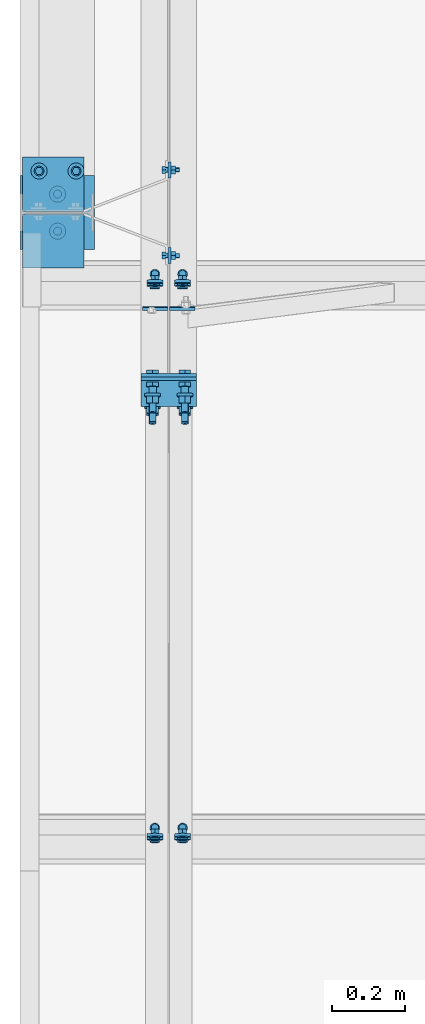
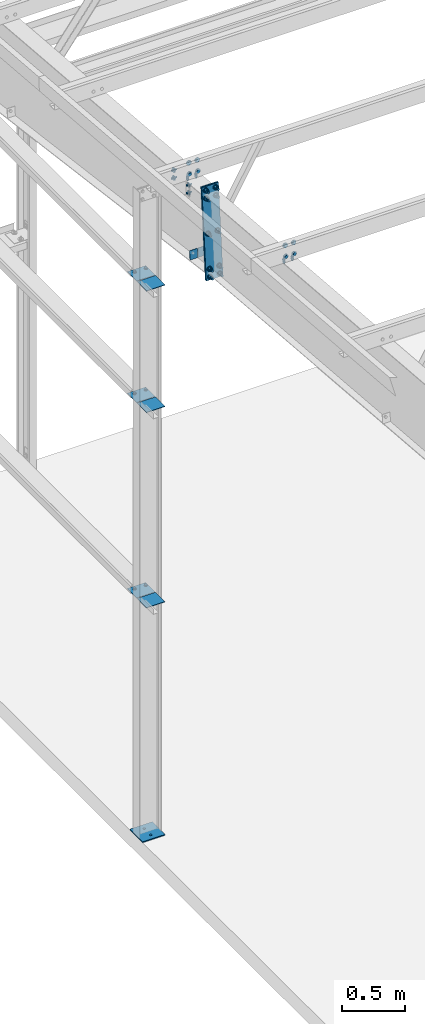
# One storey, part 84 of 185: 15 mechanical fasteners, 11 discrete accessories, 7 elements without a shape of their own.
"""IFC2X3 building model written with IfcOpenShell, lengths in millimetres."""

import ifcopenshell
import ifcopenshell.guid

model = None  # the IFC model being written
_history = None  # IfcOwnerHistory: only IFC2X3 demands one
_inside = {}  # id of a spatial element -> (the spatial element, [elements in it])
_under = {}  # id of a project, library or spatial element -> (it, [spatial elements below it])
_declared = {}  # id of a project -> (the project, [libraries it declares])
_typed = {}  # id of a type object -> (the type object, [elements of that type])
_made_of = {}  # id of a material, layer set ... -> (it, [elements and type objects made of it])


def new_model(schema):
    """Start an empty IFC model of exactly this schema.

    Asked for "IFC4X3", IfcOpenShell would pick the latest addendum, in which some entities
    have other attributes; the version numbers below select the first issue.
    IFC2X3 requires an IfcOwnerHistory on every rooted entity: one is made here for all.
    """
    global model, _history
    if schema == "IFC4X3":
        model = ifcopenshell.file(schema_version=(4, 3, 0, 0))
    else:
        model = ifcopenshell.file(schema=schema)
    _inside.clear()
    _under.clear()
    _declared.clear()
    _typed.clear()
    _made_of.clear()
    _history = None
    if model.schema == "IFC2X3":
        org = make("IfcOrganization", Name="unknown")
        user = make(
            "IfcPersonAndOrganization",
            ThePerson=make("IfcPerson", FamilyName="unknown"),
            TheOrganization=org,
        )
        app = make(
            "IfcApplication",
            ApplicationDeveloper=org,
            Version="unknown",
            ApplicationFullName="unknown",
            ApplicationIdentifier="unknown",
        )
        _history = make(
            "IfcOwnerHistory",
            OwningUser=user,
            OwningApplication=app,
            ChangeAction="ADDED",
            CreationDate=0,
        )
    return model


def make(cls, **values):
    """One entity of the class cls with the attributes given. An attribute that is None is left unset."""
    return model.create_entity(
        cls, **{name: value for name, value in values.items() if value is not None}
    )


def rooted(cls, **values):
    """An entity with a GlobalId (a new one), such as an element, a storey or a relation."""
    return make(cls, GlobalId=ifcopenshell.guid.new(), OwnerHistory=_history, **values)


def si_unit(unit_type, name, prefix=None):
    """IfcSIUnit, for example si_unit("LENGTHUNIT", "METRE", prefix="MILLI")."""
    return make("IfcSIUnit", UnitType=unit_type, Prefix=prefix, Name=name)


def assignment(units):
    """IfcUnitAssignment: the units of a project."""
    return None if units is None else make("IfcUnitAssignment", Units=units)


def point(xyz):
    """IfcCartesianPoint."""
    return None if xyz is None else make("IfcCartesianPoint", Coordinates=xyz)


def direction(xyz):
    """IfcDirection."""
    return None if xyz is None else make("IfcDirection", DirectionRatios=xyz)


def frame(location, z_axis=None, x_axis=None):
    """IfcAxis2Placement3D, a coordinate frame: its origin and axes. An axis left out is left unset."""
    return make(
        "IfcAxis2Placement3D",
        Location=point(location),
        Axis=direction(z_axis),
        RefDirection=direction(x_axis),
    )


def frame_2d(location, x_axis=None):
    """IfcAxis2Placement2D, a coordinate frame in the plane: its origin and x axis."""
    return make(
        "IfcAxis2Placement2D", Location=point(location), RefDirection=direction(x_axis)
    )


def origin_with_axes():
    """The frame at (0, 0, 0) with the z axis (0, 0, 1) and the x axis (1, 0, 0) written out."""
    return frame((0.0, 0.0, 0.0), z_axis=(0.0, 0.0, 1.0), x_axis=(1.0, 0.0, 0.0))


def origin_2d_with_axis():
    """The frame at (0, 0) in the plane with the x axis (1, 0) written out."""
    return frame_2d((0.0, 0.0), x_axis=(1.0, 0.0))


def place(relative_to, where):
    """IfcLocalPlacement: puts the frame where relative to a parent placement (None: the world)."""
    return make(
        "IfcLocalPlacement", PlacementRelTo=relative_to, RelativePlacement=where
    )


def context(
    kind, dimensions, precision=None, world=None, true_north=None, identifier=None
):
    """IfcGeometricRepresentationContext, for example the 3D "Model" context."""
    return make(
        "IfcGeometricRepresentationContext",
        ContextIdentifier=identifier,
        ContextType=kind,
        CoordinateSpaceDimension=dimensions,
        Precision=precision,
        WorldCoordinateSystem=world,
        TrueNorth=true_north,
    )


def subcontext(parent, identifier, kind, view, scale=None):
    """IfcGeometricRepresentationSubContext, for example "Body" below "Model"."""
    return make(
        "IfcGeometricRepresentationSubContext",
        ContextIdentifier=identifier,
        ContextType=kind,
        ParentContext=parent,
        TargetScale=scale,
        TargetView=view,
    )


def project(units=None, contexts=None):
    """IfcProject with its units and contexts."""
    return rooted(
        "IfcProject",
        Name="project",
        RepresentationContexts=contexts,
        UnitsInContext=assignment(units),
    )


def spatial(cls, under=None, at=None, **own):
    """A site, building, storey or space (cls), placed at a placement, below another one or the project."""
    s = rooted(cls, ObjectPlacement=at, **own)
    if under is not None:
        _under.setdefault(under.id(), (under, []))[1].append(s)
    return s


def polyline(points):
    """IfcPolyline through the points."""
    return make("IfcPolyline", Points=[point(p) for p in points])


def circle_curve(where, radius):
    """IfcCircle in the frame where."""
    return make("IfcCircle", Position=where, Radius=radius)


def parameter(value):
    """IfcParameterValue: where a trimmed curve begins or ends, as a parameter of its basis curve."""
    return model.create_entity("IfcParameterValue", value)


def trimmed(basis, trim1, trim2, sense, master):
    """IfcTrimmedCurve: the piece of a basis curve between two trims."""
    return make(
        "IfcTrimmedCurve",
        BasisCurve=basis,
        Trim1=trim1,
        Trim2=trim2,
        SenseAgreement=sense,
        MasterRepresentation=master,
    )


def segment(curve, same_sense, transition):
    """IfcCompositeCurveSegment."""
    return make(
        "IfcCompositeCurveSegment",
        Transition=transition,
        SameSense=same_sense,
        ParentCurve=curve,
    )


def composite_curve(segments, self_intersect=None):
    """IfcCompositeCurve: segments joined end to end."""
    return make("IfcCompositeCurve", Segments=segments, SelfIntersect=self_intersect)


def profile(cls, at=None, kind="AREA", **sizes):
    """A parametric profile (cls). Its sizes go by their IFC names, for example OverallWidth=200.0."""
    return make(cls, ProfileType=kind, Position=at, **sizes)


def rectangle(**sizes):
    """IfcRectangleProfileDef."""
    return profile("IfcRectangleProfileDef", **sizes)


def circle(**sizes):
    """IfcCircleProfileDef."""
    return profile("IfcCircleProfileDef", **sizes)


def outline(outer, holes=None, kind="AREA"):
    """IfcArbitraryClosedProfileDef: a profile drawn as a closed curve; with holes, ...WithVoids."""
    if holes is None:
        return make("IfcArbitraryClosedProfileDef", ProfileType=kind, OuterCurve=outer)
    return make(
        "IfcArbitraryProfileDefWithVoids",
        ProfileType=kind,
        OuterCurve=outer,
        InnerCurves=holes,
    )


def extrude(swept, where, along, depth):
    """IfcExtrudedAreaSolid: the profile swept, set in the frame where, extruded along a direction by depth."""
    return make(
        "IfcExtrudedAreaSolid",
        SweptArea=swept,
        Position=where,
        ExtrudedDirection=direction(along),
        Depth=depth,
    )


def shape(context_of_items, identifier, shape_type, items):
    """IfcShapeRepresentation: the items that make up one representation, for example the "Body"."""
    return make(
        "IfcShapeRepresentation",
        ContextOfItems=context_of_items,
        RepresentationIdentifier=identifier,
        RepresentationType=shape_type,
        Items=items,
    )


def source(mapping_origin, context_of_items, identifier, shape_type, items):
    """IfcRepresentationMap: a shape defined once, which mapped items show again and again."""
    return make(
        "IfcRepresentationMap",
        MappingOrigin=mapping_origin,
        MappedRepresentation=shape(context_of_items, identifier, shape_type, items),
    )


def transform(
    local_origin,
    x_axis=None,
    y_axis=None,
    z_axis=None,
    scale=None,
    scale2=None,
    scale3=None,
    uniform=True,
):
    """IfcCartesianTransformationOperator3D, or its non-uniform kind. x_axis, y_axis, z_axis: its Axis1, 2, 3."""
    if uniform:
        return make(
            "IfcCartesianTransformationOperator3D",
            Axis1=direction(x_axis),
            Axis2=direction(y_axis),
            LocalOrigin=point(local_origin),
            Scale=scale,
            Axis3=direction(z_axis),
        )
    return make(
        "IfcCartesianTransformationOperator3DnonUniform",
        Axis1=direction(x_axis),
        Axis2=direction(y_axis),
        LocalOrigin=point(local_origin),
        Scale=scale,
        Axis3=direction(z_axis),
        Scale2=scale2,
        Scale3=scale3,
    )


def mapped(mapping_source, mapping_target):
    """IfcMappedItem: shows the shape of a source again, moved by a transform."""
    return make(
        "IfcMappedItem", MappingSource=mapping_source, MappingTarget=mapping_target
    )


def material(Name=None, Category=None):
    """IfcMaterial."""
    return make("IfcMaterial", Name=Name, Category=Category)


def made_of(thing, what):
    """Note that an element or type object is made of a material, layer set ...; save() writes the relation."""
    if what is not None:
        _made_of.setdefault(what.id(), (what, []))[1].append(thing)
    return thing


def type_object(cls, material=None, **own):
    """A type object (cls), such as IfcWallType, which elements share."""
    return made_of(rooted(cls, **own), material)


def element(
    cls,
    number,
    at=None,
    inside=None,
    cuts=None,
    type_object=None,
    material=None,
    context=None,
    identifier="Body",
    shape_type=None,
    held_by="IfcProductDefinitionShape",
    body=None,
    shapes=None,
    **own,
):
    """One element of the class cls, such as IfcWall. Its Tag is "e" and its number.

    at: its placement. inside: the storey or other place that contains it. cuts: it is an
    opening in that element (IfcRelVoidsElement). A single representation is given by context,
    identifier, shape_type and body (its items); several are given by shapes. held_by: the class
    of the entity that holds the representations. save() writes the other relations.
    """
    e = rooted(cls, Tag="e%d" % number, ObjectPlacement=at, **own)
    if body is not None:
        shapes = [shape(context, identifier, shape_type, body)]
    if shapes is not None:
        e.Representation = make(held_by, Representations=shapes)
    if inside is not None:
        _inside.setdefault(inside.id(), (inside, []))[1].append(e)
    if cuts is not None:
        rooted(
            "IfcRelVoidsElement", RelatingBuildingElement=cuts, RelatedOpeningElement=e
        )
    if type_object is not None:
        _typed.setdefault(type_object.id(), (type_object, []))[1].append(e)
    return made_of(e, material)


def aggregate(whole, parts):
    """IfcRelAggregates: a whole, such as a stair, and the parts it consists of."""
    return rooted("IfcRelAggregates", RelatingObject=whole, RelatedObjects=parts)


def save(model, path):
    """Write the relations noted so far, then the file.

    IfcRelAggregates (storeys below a building ...), IfcRelContainedInSpatialStructure (elements
    in a storey), IfcRelDefinesByType, IfcRelAssociatesMaterial and IfcRelDeclares: one each for
    every whole, place, type object, material and project.
    """
    for whole, parts in _under.values():
        aggregate(whole, parts)
    for where, things in _inside.values():
        rooted(
            "IfcRelContainedInSpatialStructure",
            RelatedElements=things,
            RelatingStructure=where,
        )
    for kind, things in _typed.values():
        rooted("IfcRelDefinesByType", RelatedObjects=things, RelatingType=kind)
    for what, things in _made_of.values():
        rooted("IfcRelAssociatesMaterial", RelatedObjects=things, RelatingMaterial=what)
    for by, libraries in _declared.values():
        rooted("IfcRelDeclares", RelatingContext=by, RelatedDefinitions=libraries)
    model.write(path)


model = new_model("IFC2X3")

# Units and contexts
model_context = context("Model", 3, precision=1e-05, world=origin_with_axes())
body_context = subcontext(model_context, "Body", "Model", "MODEL_VIEW")
ifc_project = project(units=[si_unit("LENGTHUNIT", "METRE", prefix="MILLI"), si_unit("AREAUNIT", "SQUARE_METRE"), si_unit("VOLUMEUNIT", "CUBIC_METRE"), si_unit("MASSUNIT", "GRAM", prefix="KILO"), si_unit("TIMEUNIT", "SECOND"), si_unit("PLANEANGLEUNIT", "RADIAN"), si_unit("SOLIDANGLEUNIT", "STERADIAN"), si_unit("THERMODYNAMICTEMPERATUREUNIT", "DEGREE_CELSIUS"), si_unit("LUMINOUSINTENSITYUNIT", "LUMEN")], contexts=[model_context])

# Site, building, storey
site_placement = place(None, origin_with_axes())
site = spatial("IfcSite", under=ifc_project, at=site_placement, Name="Undefined", CompositionType="ELEMENT")
building_placement = place(site_placement, origin_with_axes())
building = spatial("IfcBuilding", under=site, at=building_placement, Name="Undefined", CompositionType="ELEMENT")
storey_placement = place(building_placement, origin_with_axes())
storey = spatial("IfcBuildingStorey", under=building, at=storey_placement, Name="Undefined", CompositionType="ELEMENT", Elevation=0.0)

# Assembly, mechanical fastener, discrete accessories
assembly_1_placement = place(storey_placement, origin_with_axes())
assembly_1 = element("IfcElementAssembly", 1, at=assembly_1_placement, inside=storey, Name="Steel Assembly", AssemblyPlace="NOTDEFINED", PredefinedType="RIGID_FRAME")
ifc_material_1 = material(Name="Undefined")
discrete_accessory_type_1 = type_object("IfcDiscreteAccessoryType", Name="Bolt assembly")
shared_shape_1 = source(origin_with_axes(), body_context, "Body", "SweptSolid", [
    extrude(circle(Radius=7.14374971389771, at=origin_2d_with_axis()), frame((0.0, -1.69000003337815, 0.0), z_axis=(0.0, 1.0, 0.0), x_axis=(1.0, 0.0, 0.0)), (0.0, 0.0, 1.0), 3.3),
    extrude(outline(composite_curve([segment(polyline([(-5.953125, 7.14374971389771), (5.953125, 7.14374971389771)]), True, "CONTINUOUS"), segment(trimmed(circle_curve(frame_2d((5.953125, 0.0), x_axis=(0.0, 1.0)), 7.1), [parameter(0.0)], [parameter(3.14159265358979)], False, "PARAMETER"), True, "CONTINUOUS"), segment(polyline([(5.953125, -7.14374971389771), (-5.953125, -7.14374971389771)]), True, "CONTINUOUS"), segment(trimmed(circle_curve(frame_2d((-5.953125, 0.0), x_axis=(0.0, -1.0)), 7.1), [parameter(0.0)], [parameter(3.14159265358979)], False, "PARAMETER"), True, "DISCONTINUOUS")], self_intersect=False)), frame((0.0, -4.66250000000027, 0.0), z_axis=(0.0, 1.0, 0.0), x_axis=(1.0, 0.0, 0.0)), (0.0, 0.0, 1.0), 4.8),
    extrude(outline(polyline([(10.9985221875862, 0.0), (5.4992610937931, 9.52499961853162), (-5.4992610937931, 9.52499961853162), (-10.9985221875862, 0.0), (-5.4992610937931, -9.52499961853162), (5.4992610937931, -9.52499961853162), (10.9985221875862, 0.0)])), frame((0.0, -18.2562496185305, 0.0), z_axis=(0.0, 1.0, 0.0), x_axis=(1.0, 0.0, 0.0)), (0.0, 0.0, 1.0), 9.5),
    extrude(circle(Radius=6.34999990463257, at=origin_2d_with_axis()), frame((0.0, -8.73125000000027, 0.0), z_axis=(0.0, 1.0, 0.0), x_axis=(1.0, 0.0, 0.0)), (0.0, 0.0, 1.0), 38.1),
    extrude(circle(Radius=13.4937496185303, at=origin_2d_with_axis()), frame((0.0, -8.73125000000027, 0.0), z_axis=(0.0, 1.0, 0.0), x_axis=(1.0, 0.0, 0.0)), (0.0, 0.0, 1.0), 4.0),
    extrude(circle(Radius=22.2250003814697, at=origin_2d_with_axis()), frame((0.0, 1.5900000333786, 0.0), z_axis=(0.0, 1.0, 0.0), x_axis=(1.0, 0.0, 0.0)), (0.0, 0.0, 1.0), 7.9),
    extrude(outline(polyline([(12.8316099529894, 0.0), (6.4158049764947, 11.1125001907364), (-6.4158049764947, 11.1125001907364), (-12.8316099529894, 0.0), (-6.4158049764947, -11.1125001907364), (6.4158049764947, -11.1125001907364), (12.8316099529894, 0.0)])), frame((0.0, 9.5275000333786, 0.0), z_axis=(0.0, 1.0, 0.0), x_axis=(1.0, 0.0, 0.0)), (0.0, 0.0, 1.0), 12.3),
])
mechanical_fastener_1_placement = place(assembly_1_placement, frame((50.8000000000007, 27241.5, 2286.0), z_axis=(0.0, 1.0, 0.0), x_axis=(1.0, 0.0, 0.0)))
mechanical_fastener_1 = element("IfcMechanicalFastener", 2, at=mechanical_fastener_1_placement, type_object=discrete_accessory_type_1, material=ifc_material_1, Name="Bolt assembly", NominalDiameter=12.6999998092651, NominalLength=38.0999984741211, context=body_context, shape_type="MappedRepresentation", body=[
    mapped(shared_shape_1, transform((0.0, 0.0, 0.0))),
    mapped(shared_shape_1, transform((101.599998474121, 0.0, 0.0))),
])
ifc_material_2 = material(Name="STEEL/55")
discrete_accessory_type_2 = type_object("IfcDiscreteAccessoryType", Name="XP-38")
discrete_accessory_1_placement = place(assembly_1_placement, frame((89.2968750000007, 27130.297212, 2288.38125), z_axis=(1.0, 0.0, 0.0), x_axis=(0.0, 1.0, 0.0)))
discrete_accessory_1 = element("IfcDiscreteAccessory", 3, at=discrete_accessory_1_placement, type_object=discrete_accessory_type_2, material=ifc_material_2, Name="XP-38", ObjectType="PL3/16\"X5 7/8\"", context=body_context, shape_type="SweptSolid", body=[
    extrude(rectangle(XDim=4.7625, YDim=168.275, at=origin_2d_with_axis()), frame((149.224999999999, 0.0, 0.0), z_axis=(-1.0, 0.0, 0.0), x_axis=(0.0, -1.0, 0.0)), (0.0, 0.0, 1.0), 149.2),
])
discrete_accessory_2_placement = place(assembly_1_placement, frame((89.296875, 27124.102788, 2288.38125), z_axis=(1.0, 0.0, 0.0), x_axis=(0.0, -1.0, 0.0)))
discrete_accessory_2 = element("IfcDiscreteAccessory", 4, at=discrete_accessory_2_placement, type_object=discrete_accessory_type_2, material=ifc_material_2, Name="XP-38", ObjectType="PL3/16\"X5 7/8\"", context=body_context, shape_type="SweptSolid", body=[
    extrude(rectangle(XDim=4.7625, YDim=168.275, at=origin_2d_with_axis()), frame((149.224999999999, 0.0, 0.0), z_axis=(-1.0, 0.0, 0.0), x_axis=(0.0, -1.0, 0.0)), (0.0, 0.0, 1.0), 149.2),
])
discrete_accessory_3_placement = place(assembly_1_placement, frame((89.2968750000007, 27130.297212, 5336.38125), z_axis=(1.0, 0.0, 0.0), x_axis=(0.0, 1.0, 0.0)))
discrete_accessory_3 = element("IfcDiscreteAccessory", 5, at=discrete_accessory_3_placement, type_object=discrete_accessory_type_2, material=ifc_material_2, Name="XP-38", ObjectType="PL3/16\"X5 7/8\"", context=body_context, shape_type="SweptSolid", body=[
    extrude(rectangle(XDim=4.7625, YDim=168.275, at=origin_2d_with_axis()), frame((149.224999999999, 0.0, 0.0), z_axis=(-1.0, 0.0, 0.0), x_axis=(0.0, -1.0, 0.0)), (0.0, 0.0, 1.0), 149.2),
])
discrete_accessory_4_placement = place(assembly_1_placement, frame((89.296875, 27124.102788, 5336.38125), z_axis=(1.0, 0.0, 0.0), x_axis=(0.0, -1.0, 0.0)))
discrete_accessory_4 = element("IfcDiscreteAccessory", 6, at=discrete_accessory_4_placement, type_object=discrete_accessory_type_2, material=ifc_material_2, Name="XP-38", ObjectType="PL3/16\"X5 7/8\"", context=body_context, shape_type="SweptSolid", body=[
    extrude(rectangle(XDim=4.7625, YDim=168.275, at=origin_2d_with_axis()), frame((149.224999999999, 0.0, 0.0), z_axis=(-1.0, 0.0, 0.0), x_axis=(0.0, -1.0, 0.0)), (0.0, 0.0, 1.0), 149.2),
])
discrete_accessory_5_placement = place(assembly_1_placement, frame((89.2968750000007, 27130.297212, 4167.98125), z_axis=(1.0, 0.0, 0.0), x_axis=(0.0, 1.0, 0.0)))
discrete_accessory_5 = element("IfcDiscreteAccessory", 7, at=discrete_accessory_5_placement, type_object=discrete_accessory_type_2, material=ifc_material_2, Name="XP-38", ObjectType="PL3/16\"X5 7/8\"", context=body_context, shape_type="SweptSolid", body=[
    extrude(rectangle(XDim=4.7625, YDim=168.275, at=origin_2d_with_axis()), frame((149.224999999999, 0.0, 0.0), z_axis=(-1.0, 0.0, 0.0), x_axis=(0.0, -1.0, 0.0)), (0.0, 0.0, 1.0), 149.2),
])
discrete_accessory_6_placement = place(assembly_1_placement, frame((89.296875, 27124.102788, 4167.98125), z_axis=(1.0, 0.0, 0.0), x_axis=(0.0, -1.0, 0.0)))
discrete_accessory_6 = element("IfcDiscreteAccessory", 8, at=discrete_accessory_6_placement, type_object=discrete_accessory_type_2, material=ifc_material_2, Name="XP-38", ObjectType="PL3/16\"X5 7/8\"", context=body_context, shape_type="SweptSolid", body=[
    extrude(rectangle(XDim=4.7625, YDim=168.275, at=origin_2d_with_axis()), frame((149.224999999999, 0.0, 0.0), z_axis=(-1.0, 0.0, 0.0), x_axis=(0.0, -1.0, 0.0)), (0.0, 0.0, 1.0), 149.2),
])

# Assembly, mechanical fasteners
assembly_2_placement = place(storey_placement, origin_with_axes())
assembly_2 = element("IfcElementAssembly", 9, at=assembly_2_placement, inside=storey, Name="Steel Assembly", AssemblyPlace="NOTDEFINED", PredefinedType="RIGID_FRAME")
shared_shape_2 = source(origin_with_axes(), body_context, "Body", "SweptSolid", [
    extrude(circle(Radius=7.14374971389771, at=origin_2d_with_axis()), frame((0.0, -1.59000001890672, 0.0), z_axis=(0.0, 1.0, 0.0), x_axis=(1.0, 0.0, 0.0)), (0.0, 0.0, 1.0), 3.3),
    extrude(circle(Radius=13.4937496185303, at=origin_2d_with_axis()), frame((0.0, -5.5587500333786, 0.0), z_axis=(0.0, 1.0, 0.0), x_axis=(1.0, 0.0, 0.0)), (0.0, 0.0, 1.0), 4.0),
    extrude(circle(Radius=22.2250003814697, at=origin_2d_with_axis()), frame((0.0, 1.5900000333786, 0.0), z_axis=(0.0, 1.0, 0.0), x_axis=(1.0, 0.0, 0.0)), (0.0, 0.0, 1.0), 7.9),
    extrude(outline(polyline([(12.8316099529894, 0.0), (6.4158049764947, 11.1125001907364), (-6.4158049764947, 11.1125001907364), (-12.8316099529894, 0.0), (-6.4158049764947, -11.1125001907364), (6.4158049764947, -11.1125001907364), (12.8316099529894, 0.0)])), frame((0.0, 9.5275000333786, 0.0), z_axis=(0.0, 1.0, 0.0), x_axis=(1.0, 0.0, 0.0)), (0.0, 0.0, 1.0), 12.3),
])
mechanical_fastener_2_placement = place(assembly_2_placement, frame((444.499999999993, 26932.678161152, 6467.63407038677), z_axis=(1.0, 0.0, 0.0), x_axis=(0.0, -0.0830454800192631, -0.996545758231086)))
mechanical_fastener_2 = element("IfcMechanicalFastener", 10, at=mechanical_fastener_2_placement, type_object=discrete_accessory_type_1, material=ifc_material_1, Name="Bolt assembly", NominalDiameter=12.6999998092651, NominalLength=38.0999984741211, context=body_context, shape_type="MappedRepresentation", body=[
    mapped(shared_shape_2, transform((0.0, 0.0, 0.0))),
    mapped(shared_shape_2, transform((101.599998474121, 0.0, 0.0))),
])
mechanical_fastener_3_placement = place(assembly_2_placement, frame((368.299999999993, 26932.678161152, 6467.63407038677), z_axis=(1.0, 0.0, 0.0), x_axis=(0.0, -0.0830454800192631, -0.996545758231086)))
mechanical_fastener_3 = element("IfcMechanicalFastener", 11, at=mechanical_fastener_3_placement, type_object=discrete_accessory_type_1, material=ifc_material_1, Name="Bolt assembly", NominalDiameter=12.6999998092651, NominalLength=38.0999984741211, context=body_context, shape_type="MappedRepresentation", body=[
    mapped(shared_shape_2, transform((0.0, 0.0, 0.0))),
    mapped(shared_shape_2, transform((101.599998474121, 0.0, 0.0))),
])

assembly_3_placement = place(storey_placement, origin_with_axes())
assembly_3 = element("IfcElementAssembly", 12, at=assembly_3_placement, inside=storey, Name="Steel Assembly", AssemblyPlace="NOTDEFINED", PredefinedType="RIGID_FRAME")
mechanical_fastener_4_placement = place(assembly_3_placement, frame((444.500000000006, 25413.942425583, 6594.19538193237), z_axis=(1.0, 0.0, 0.0), x_axis=(0.0, -0.0830454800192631, -0.996545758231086)))
mechanical_fastener_4 = element("IfcMechanicalFastener", 13, at=mechanical_fastener_4_placement, type_object=discrete_accessory_type_1, material=ifc_material_1, Name="Bolt assembly", NominalDiameter=12.6999998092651, NominalLength=38.0999984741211, context=body_context, shape_type="MappedRepresentation", body=[
    mapped(shared_shape_2, transform((0.0, 0.0, 0.0))),
    mapped(shared_shape_2, transform((101.599998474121, 0.0, 0.0))),
])
mechanical_fastener_5_placement = place(assembly_3_placement, frame((368.300000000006, 25413.942425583, 6594.19538193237), z_axis=(1.0, 0.0, 0.0), x_axis=(0.0, -0.0830454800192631, -0.996545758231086)))
mechanical_fastener_5 = element("IfcMechanicalFastener", 14, at=mechanical_fastener_5_placement, type_object=discrete_accessory_type_1, material=ifc_material_1, Name="Bolt assembly", NominalDiameter=12.6999998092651, NominalLength=38.0999984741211, context=body_context, shape_type="MappedRepresentation", body=[
    mapped(shared_shape_2, transform((0.0, 0.0, 0.0))),
    mapped(shared_shape_2, transform((101.599998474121, 0.0, 0.0))),
])

# Assembly, mechanical fastener
assembly_4_placement = place(storey_placement, origin_with_axes())
assembly_4 = element("IfcElementAssembly", 15, at=assembly_4_placement, inside=storey, Name="Steel Assembly", AssemblyPlace="NOTDEFINED", PredefinedType="RIGID_FRAME")
shared_shape_3 = source(origin_with_axes(), body_context, "Body", "SweptSolid", [
    extrude(circle(Radius=7.14499998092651, at=origin_2d_with_axis()), frame((0.0, 0.0, 0.0), z_axis=(0.0, 1.0, 0.0), x_axis=(1.0, 0.0, 0.0)), (0.0, 0.0, 1.0), 6.5),
    extrude(outline(polyline([(10.9985221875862, 0.0), (5.4992610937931, 9.52499961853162), (-5.4992610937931, 9.52499961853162), (-10.9985221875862, 0.0), (-5.4992610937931, -9.52499961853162), (5.4992610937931, -9.52499961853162), (10.9985221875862, 0.0)])), frame((0.0, -9.52499961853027, 0.0), z_axis=(0.0, 1.0, 0.0), x_axis=(1.0, 0.0, 0.0)), (0.0, 0.0, 1.0), 9.5),
    extrude(circle(Radius=6.34999990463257, at=origin_2d_with_axis()), frame((0.0, 0.0, 0.0), z_axis=(0.0, 1.0, 0.0), x_axis=(1.0, 0.0, 0.0)), (0.0, 0.0, 1.0), 38.1),
    extrude(circle(Radius=22.2250003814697, at=origin_2d_with_axis()), frame((0.0, 6.35000000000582, 0.0), z_axis=(0.0, 1.0, 0.0), x_axis=(1.0, 0.0, 0.0)), (0.0, 0.0, 1.0), 7.9),
    extrude(outline(polyline([(12.8316099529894, 0.0), (6.4158049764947, 11.1125001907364), (-6.4158049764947, 11.1125001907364), (-12.8316099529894, 0.0), (-6.4158049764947, -11.1125001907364), (6.4158049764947, -11.1125001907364), (12.8316099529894, 0.0)])), frame((0.0, 14.2875000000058, 0.0), z_axis=(0.0, 1.0, 0.0), x_axis=(1.0, 0.0, 0.0)), (0.0, 0.0, 1.0), 12.3),
])
mechanical_fastener_6_placement = place(assembly_4_placement, frame((397.699732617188, 27009.6043438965, 6120.55019511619), z_axis=(0.0, 1.0, 0.0), x_axis=(0.0, 0.0, 1.0)))
mechanical_fastener_6 = element("IfcMechanicalFastener", 16, at=mechanical_fastener_6_placement, type_object=discrete_accessory_type_1, material=ifc_material_1, Name="Bolt assembly", NominalDiameter=12.6999998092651, NominalLength=38.0999984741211, context=body_context, shape_type="MappedRepresentation", body=[
    mapped(shared_shape_3, transform((0.0, 0.0, 0.0))),
    mapped(shared_shape_3, transform((76.1999969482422, 0.0, 0.0))),
])
aggregate(assembly_4, [mechanical_fastener_6])

assembly_5_placement = place(storey_placement, origin_with_axes())
assembly_5 = element("IfcElementAssembly", 17, at=assembly_5_placement, inside=storey, Name="Steel Assembly", AssemblyPlace="NOTDEFINED", PredefinedType="RIGID_FRAME")
mechanical_fastener_7_placement = place(assembly_5_placement, frame((397.699732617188, 27244.7956561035, 6120.55019511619), z_axis=(0.0, 1.0, 0.0), x_axis=(0.0, 0.0, 1.0)))
mechanical_fastener_7 = element("IfcMechanicalFastener", 18, at=mechanical_fastener_7_placement, type_object=discrete_accessory_type_1, material=ifc_material_1, Name="Bolt assembly", NominalDiameter=12.6999998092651, NominalLength=38.0999984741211, context=body_context, shape_type="MappedRepresentation", body=[
    mapped(shared_shape_3, transform((0.0, 0.0, 0.0))),
    mapped(shared_shape_3, transform((76.1999969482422, 0.0, 0.0))),
])
aggregate(assembly_5, [mechanical_fastener_7])

# Mechanical fastener
shared_shape_4 = source(origin_with_axes(), body_context, "Body", "SweptSolid", [
    extrude(circle(Radius=11.1124992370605, at=origin_2d_with_axis()), frame((0.0, 0.0, 0.0), z_axis=(0.0, 1.0, 0.0), x_axis=(1.0, 0.0, 0.0)), (0.0, 0.0, 1.0), 9.6),
    extrude(circle(Radius=22.2250003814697, at=origin_2d_with_axis()), frame((0.0, 9.52499999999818, 0.0), z_axis=(0.0, 1.0, 0.0), x_axis=(1.0, 0.0, 0.0)), (0.0, 0.0, 1.0), 7.9),
    extrude(outline(polyline([(18.3308710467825, 0.0), (9.16543552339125, 15.8750000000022), (-9.16543552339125, 15.8750000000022), (-18.3308710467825, 0.0), (-9.16543552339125, -15.8750000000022), (9.16543552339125, -15.8750000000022), (18.3308710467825, 0.0)])), frame((0.0, 17.4624999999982, 0.0), z_axis=(0.0, 1.0, 0.0), x_axis=(1.0, 0.0, 0.0)), (0.0, 0.0, 1.0), 19.0),
])
mechanical_fastener_8_placement = place(assembly_1_placement, frame((101.6, 27076.4, 9.52499999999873), z_axis=(-1.0, 0.0, 0.0), x_axis=(0.0, 1.0, 0.0)))
mechanical_fastener_8 = element("IfcMechanicalFastener", 19, at=mechanical_fastener_8_placement, type_object=discrete_accessory_type_1, material=ifc_material_1, Name="Bolt assembly", NominalDiameter=19.0499992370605, NominalLength=9.52499961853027, context=body_context, shape_type="MappedRepresentation", body=[
    mapped(shared_shape_4, transform((0.0, 0.0, 0.0))),
    mapped(shared_shape_4, transform((101.599998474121, 0.0, 0.0))),
])

# Discrete accessory
discrete_accessory_type_3 = type_object("IfcDiscreteAccessoryType", Name="Base Plate")
discrete_accessory_7_placement = place(assembly_1_placement, frame((1.08246744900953e-13, 27127.2, 4.76250000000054), z_axis=(0.0, -1.0, 0.0), x_axis=(1.0, 0.0, 0.0)))
discrete_accessory_7 = element("IfcDiscreteAccessory", 20, at=discrete_accessory_7_placement, type_object=discrete_accessory_type_3, material=ifc_material_2, Name="Base Plate", ObjectType="FL3/8\"X8\"", context=body_context, shape_type="SweptSolid", body=[
    extrude(rectangle(XDim=9.525, YDim=203.2, at=origin_2d_with_axis()), frame((203.200000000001, 0.0, 0.0), z_axis=(-1.0, 0.0, 0.0), x_axis=(0.0, -1.0, 0.0)), (0.0, 0.0, 1.0), 203.2),
])

# Mechanical fastener
shared_shape_5 = source(origin_with_axes(), body_context, "Body", "SweptSolid", [
    extrude(circle(Radius=7.14374971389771, at=origin_2d_with_axis()), frame((0.0, -1.69000003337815, 0.0), z_axis=(0.0, 1.0, 0.0), x_axis=(1.0, 0.0, 0.0)), (0.0, 0.0, 1.0), 3.3),
    extrude(outline(composite_curve([segment(polyline([(-5.953125, 7.14374971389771), (5.953125, 7.14374971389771)]), True, "CONTINUOUS"), segment(trimmed(circle_curve(frame_2d((5.953125, 0.0), x_axis=(0.0, 1.0)), 7.1), [parameter(0.0)], [parameter(3.14159265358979)], False, "PARAMETER"), True, "CONTINUOUS"), segment(polyline([(5.953125, -7.14374971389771), (-5.953125, -7.14374971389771)]), True, "CONTINUOUS"), segment(trimmed(circle_curve(frame_2d((-5.953125, 0.0), x_axis=(0.0, -1.0)), 7.1), [parameter(0.0)], [parameter(3.14159265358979)], False, "PARAMETER"), True, "DISCONTINUOUS")], self_intersect=False)), frame((0.0, -4.66250000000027, 0.0), z_axis=(0.0, 1.0, 0.0), x_axis=(1.0, 0.0, 0.0)), (0.0, 0.0, 1.0), 4.8),
    extrude(outline(polyline([(10.9985221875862, 0.0), (5.4992610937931, 9.52499961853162), (-5.4992610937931, 9.52499961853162), (-10.9985221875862, 0.0), (-5.4992610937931, -9.52499961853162), (5.4992610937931, -9.52499961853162), (10.9985221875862, 0.0)])), frame((0.0, -18.2562496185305, 0.0), z_axis=(0.0, 1.0, 0.0), x_axis=(1.0, 0.0, 0.0)), (0.0, 0.0, 1.0), 9.5),
    extrude(circle(Radius=6.34999990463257, at=origin_2d_with_axis()), frame((0.0, -8.73125000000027, 0.0), z_axis=(0.0, 1.0, 0.0), x_axis=(1.0, 0.0, 0.0)), (0.0, 0.0, 1.0), 38.1),
    extrude(circle(Radius=13.4937496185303, at=origin_2d_with_axis()), frame((0.0, -8.73125000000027, 0.0), z_axis=(0.0, 1.0, 0.0), x_axis=(1.0, 0.0, 0.0)), (0.0, 0.0, 1.0), 4.0),
    extrude(circle(Radius=22.2250003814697, at=origin_2d_with_axis()), frame((0.0, 1.5900000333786, 0.0), z_axis=(0.0, 1.0, 0.0), x_axis=(1.0, 0.0, 0.0)), (0.0, 0.0, 1.0), 7.9),
    extrude(outline(polyline([(12.8316099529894, 0.0), (6.4158049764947, 11.1125001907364), (-6.4158049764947, 11.1125001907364), (-12.8316099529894, 0.0), (-6.4158049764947, -11.1125001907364), (6.4158049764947, -11.1125001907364), (12.8316099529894, 0.0)])), frame((0.0, 9.5275000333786, 0.0), z_axis=(0.0, 1.0, 0.0), x_axis=(1.0, 0.0, 0.0)), (0.0, 0.0, 1.0), 12.3),
])
mechanical_fastener_9_placement = place(assembly_1_placement, frame((50.8000000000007, 27241.5, 5334.0), z_axis=(0.0, 1.0, 0.0), x_axis=(1.0, 0.0, 0.0)))
mechanical_fastener_9 = element("IfcMechanicalFastener", 21, at=mechanical_fastener_9_placement, type_object=discrete_accessory_type_1, material=ifc_material_1, Name="Bolt assembly", NominalDiameter=12.6999998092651, NominalLength=38.0999984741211, context=body_context, shape_type="MappedRepresentation", body=[
    mapped(shared_shape_5, transform((0.0, 0.0, 0.0))),
    mapped(shared_shape_5, transform((101.599998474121, 0.0, 0.0))),
])

shared_shape_6 = source(origin_with_axes(), body_context, "Body", "SweptSolid", [
    extrude(circle(Radius=7.14374971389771, at=origin_2d_with_axis()), frame((0.0, -1.69000003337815, 0.0), z_axis=(0.0, 1.0, 0.0), x_axis=(1.0, 0.0, 0.0)), (0.0, 0.0, 1.0), 3.3),
    extrude(outline(composite_curve([segment(polyline([(-5.953125, 7.14374971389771), (5.953125, 7.14374971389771)]), True, "CONTINUOUS"), segment(trimmed(circle_curve(frame_2d((5.953125, 0.0), x_axis=(0.0, 1.0)), 7.1), [parameter(0.0)], [parameter(3.14159265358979)], False, "PARAMETER"), True, "CONTINUOUS"), segment(polyline([(5.953125, -7.14374971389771), (-5.953125, -7.14374971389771)]), True, "CONTINUOUS"), segment(trimmed(circle_curve(frame_2d((-5.953125, 0.0), x_axis=(0.0, -1.0)), 7.1), [parameter(0.0)], [parameter(3.14159265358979)], False, "PARAMETER"), True, "DISCONTINUOUS")], self_intersect=False)), frame((0.0, -4.66250000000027, 0.0), z_axis=(0.0, 1.0, 0.0), x_axis=(1.0, 0.0, 0.0)), (0.0, 0.0, 1.0), 4.8),
    extrude(outline(polyline([(10.9985221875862, 0.0), (5.4992610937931, 9.52499961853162), (-5.4992610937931, 9.52499961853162), (-10.9985221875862, 0.0), (-5.4992610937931, -9.52499961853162), (5.4992610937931, -9.52499961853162), (10.9985221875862, 0.0)])), frame((0.0, -18.2562496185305, 0.0), z_axis=(0.0, 1.0, 0.0), x_axis=(1.0, 0.0, 0.0)), (0.0, 0.0, 1.0), 9.5),
    extrude(circle(Radius=6.34999990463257, at=origin_2d_with_axis()), frame((0.0, -8.73125000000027, 0.0), z_axis=(0.0, 1.0, 0.0), x_axis=(1.0, 0.0, 0.0)), (0.0, 0.0, 1.0), 38.1),
    extrude(circle(Radius=13.4937496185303, at=origin_2d_with_axis()), frame((0.0, -8.73125000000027, 0.0), z_axis=(0.0, 1.0, 0.0), x_axis=(1.0, 0.0, 0.0)), (0.0, 0.0, 1.0), 4.0),
    extrude(circle(Radius=22.2250003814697, at=origin_2d_with_axis()), frame((0.0, 1.5900000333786, 0.0), z_axis=(0.0, 1.0, 0.0), x_axis=(1.0, 0.0, 0.0)), (0.0, 0.0, 1.0), 7.9),
    extrude(outline(polyline([(12.8316099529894, 0.0), (6.4158049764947, 11.1125001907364), (-6.4158049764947, 11.1125001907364), (-12.8316099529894, 0.0), (-6.4158049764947, -11.1125001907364), (6.4158049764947, -11.1125001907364), (12.8316099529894, 0.0)])), frame((0.0, 9.5275000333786, 0.0), z_axis=(0.0, 1.0, 0.0), x_axis=(1.0, 0.0, 0.0)), (0.0, 0.0, 1.0), 12.3),
])
mechanical_fastener_10_placement = place(assembly_1_placement, frame((50.8000000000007, 27241.5, 4165.6), z_axis=(0.0, 1.0, 0.0), x_axis=(1.0, 0.0, 0.0)))
mechanical_fastener_10 = element("IfcMechanicalFastener", 22, at=mechanical_fastener_10_placement, type_object=discrete_accessory_type_1, material=ifc_material_1, Name="Bolt assembly", NominalDiameter=12.6999998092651, NominalLength=38.0999984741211, context=body_context, shape_type="MappedRepresentation", body=[
    mapped(shared_shape_6, transform((0.0, 0.0, 0.0))),
    mapped(shared_shape_6, transform((101.599998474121, 0.0, 0.0))),
])

aggregate(assembly_1, [mechanical_fastener_1, discrete_accessory_1, discrete_accessory_2, mechanical_fastener_9, discrete_accessory_3, discrete_accessory_4, mechanical_fastener_10, discrete_accessory_5, discrete_accessory_6, mechanical_fastener_8, discrete_accessory_7])

# Assembly, discrete accessories, mechanical fasteners
assembly_6_placement = place(storey_placement, origin_with_axes())
assembly_6 = element("IfcElementAssembly", 23, at=assembly_6_placement, inside=storey, Name="Steel Assembly", AssemblyPlace="NOTDEFINED", PredefinedType="RIGID_FRAME")
discrete_accessory_type_4 = type_object("IfcDiscreteAccessoryType", Name="FLANGE BRACE FLIP")
discrete_accessory_8_placement = place(assembly_6_placement, frame((408.781249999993, 26864.7142460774, 5631.5000458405), z_axis=(0.0, -0.0830454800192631, -0.996545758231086), x_axis=(1.0, 0.0, 0.0)))
discrete_accessory_8 = element("IfcDiscreteAccessory", 24, at=discrete_accessory_8_placement, type_object=discrete_accessory_type_4, material=ifc_material_2, Name="FLANGE BRACE FLIP", ObjectType="PL1/8\"X2 3/4\"", context=body_context, shape_type="SweptSolid", body=[
    extrude(rectangle(XDim=3.416, YDim=85.725, at=origin_2d_with_axis()), frame((69.8499999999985, 0.0, 0.0), z_axis=(-1.0, 0.0, 0.0), x_axis=(0.0, -1.0, 0.0)), (0.0, 0.0, 1.0), 69.8),
])
discrete_accessory_9_placement = place(assembly_6_placement, frame((404.018749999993, 26864.7142460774, 5631.5000458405), z_axis=(0.0, -0.0830454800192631, -0.996545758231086), x_axis=(-1.0, 0.0, 0.0)))
discrete_accessory_9 = element("IfcDiscreteAccessory", 25, at=discrete_accessory_9_placement, type_object=discrete_accessory_type_4, material=ifc_material_2, Name="FLANGE BRACE FLIP", ObjectType="PL1/8\"X2 3/4\"", context=body_context, shape_type="SweptSolid", body=[
    extrude(rectangle(XDim=3.416, YDim=85.725, at=origin_2d_with_axis()), frame((69.8499999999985, 0.0, 0.0), z_axis=(-1.0, 0.0, 0.0), x_axis=(0.0, -1.0, 0.0)), (0.0, 0.0, 1.0), 69.8),
])
shared_shape_7 = source(origin_with_axes(), body_context, "Body", "SweptSolid", [
    extrude(circle(Radius=10.3187494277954, at=origin_2d_with_axis()), frame((0.0, -0.1, 0.0), z_axis=(0.0, 1.0, 0.0), x_axis=(1.0, 0.0, 0.0)), (0.0, 0.0, 1.0), 9.6),
    extrude(circle(Radius=10.3187494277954, at=origin_2d_with_axis()), frame((0.0, -9.55200000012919, 0.0), z_axis=(0.0, 1.0, 0.0), x_axis=(1.0, 0.0, 0.0)), (0.0, 0.0, 1.0), 9.7),
    extrude(outline(polyline([(18.3308710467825, 0.0), (9.16543552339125, 15.8750000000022), (-9.16543552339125, 15.8750000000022), (-18.3308710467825, 0.0), (-9.16543552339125, -15.8750000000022), (9.16543552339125, -15.8750000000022), (18.3308710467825, 0.0)])), frame((0.0, -21.5582500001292, 0.0), z_axis=(0.0, 1.0, 0.0), x_axis=(1.0, 0.0, 0.0)), (0.0, 0.0, 1.0), 11.9),
    extrude(circle(Radius=9.52499961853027, at=origin_2d_with_axis()), frame((0.0, -9.65200000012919, 0.0), z_axis=(0.0, 1.0, 0.0), x_axis=(1.0, 0.0, 0.0)), (0.0, 0.0, 1.0), 69.8),
    extrude(circle(Radius=22.2250003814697, at=origin_2d_with_axis()), frame((0.0, 9.52499999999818, 0.0), z_axis=(0.0, 1.0, 0.0), x_axis=(1.0, 0.0, 0.0)), (0.0, 0.0, 1.0), 7.9),
    extrude(outline(polyline([(18.3308710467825, 0.0), (9.16543552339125, 15.8750000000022), (-9.16543552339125, 15.8750000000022), (-18.3308710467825, 0.0), (-9.16543552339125, -15.8750000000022), (9.16543552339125, -15.8750000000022), (18.3308710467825, 0.0)])), frame((0.0, 17.4624999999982, 0.0), z_axis=(0.0, 1.0, 0.0), x_axis=(1.0, 0.0, 0.0)), (0.0, 0.0, 1.0), 19.0),
])
mechanical_fastener_11_placement = place(assembly_6_placement, frame((406.399999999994, 26640.4690271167, 5975.85197822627), z_axis=(-1.0, 0.0, 0.0), x_axis=(0.0, -0.0830454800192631, -0.996545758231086)))
mechanical_fastener_11 = element("IfcMechanicalFastener", 26, at=mechanical_fastener_11_placement, type_object=discrete_accessory_type_1, material=ifc_material_1, Name="Bolt assembly", NominalDiameter=19.0499992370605, NominalLength=69.8499984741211, context=body_context, shape_type="MappedRepresentation", body=[
    mapped(shared_shape_7, transform((0.0, 0.0, -44.4500007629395))),
    mapped(shared_shape_7, transform((0.0, 0.0, 44.4500007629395))),
])
mechanical_fastener_12_placement = place(assembly_6_placement, frame((406.399999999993, 26607.5103524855, 5580.34788344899), z_axis=(1.0, 0.0, 0.0), x_axis=(0.0, 0.0830454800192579, 0.996545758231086)))
mechanical_fastener_12 = element("IfcMechanicalFastener", 27, at=mechanical_fastener_12_placement, type_object=discrete_accessory_type_1, material=ifc_material_1, Name="Bolt assembly", NominalDiameter=19.0499992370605, NominalLength=69.8499984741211, context=body_context, shape_type="MappedRepresentation", body=[
    mapped(shared_shape_7, transform((0.0, 0.0, -44.4500007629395))),
    mapped(shared_shape_7, transform((73.1520004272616, 5.82076609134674e-11, -44.4500007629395))),
    mapped(shared_shape_7, transform((0.0, 0.0, 44.4500007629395))),
    mapped(shared_shape_7, transform((73.1520004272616, 5.82076609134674e-11, 44.4500007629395))),
])
mechanical_fastener_13_placement = place(assembly_6_placement, frame((406.399999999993, 26673.4277019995, 6371.35607602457), z_axis=(-1.0, 0.0, 0.0), x_axis=(0.0, -0.0830454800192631, -0.996545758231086)))
mechanical_fastener_13 = element("IfcMechanicalFastener", 28, at=mechanical_fastener_13_placement, type_object=discrete_accessory_type_1, material=ifc_material_1, Name="Bolt assembly", NominalDiameter=19.0499992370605, NominalLength=69.8499984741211, context=body_context, shape_type="MappedRepresentation", body=[
    mapped(shared_shape_7, transform((0.0, 0.0, -44.4500007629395))),
    mapped(shared_shape_7, transform((73.1520004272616, 5.82076609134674e-11, -44.4500007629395))),
    mapped(shared_shape_7, transform((0.0, 0.0, 44.4500007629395))),
    mapped(shared_shape_7, transform((73.1520004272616, 5.82076609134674e-11, 44.4500007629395))),
])

# Mechanical fastener
shared_shape_8 = source(origin_with_axes(), body_context, "Body", "SweptSolid", [
    extrude(circle(Radius=7.14374971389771, at=origin_2d_with_axis()), frame((0.0, -0.1, 0.0), z_axis=(0.0, 1.0, 0.0), x_axis=(1.0, 0.0, 0.0)), (0.0, 0.0, 1.0), 6.5),
    extrude(circle(Radius=7.14374971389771, at=origin_2d_with_axis()), frame((0.0, -3.08000006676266, 0.0), z_axis=(0.0, 1.0, 0.0), x_axis=(1.0, 0.0, 0.0)), (0.0, 0.0, 1.0), 3.2),
    extrude(outline(polyline([(10.9985221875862, 0.0), (5.4992610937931, 9.52499961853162), (-5.4992610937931, 9.52499961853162), (-10.9985221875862, 0.0), (-5.4992610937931, -9.52499961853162), (5.4992610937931, -9.52499961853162), (10.9985221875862, 0.0)])), frame((0.0, -16.6737496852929, 0.0), z_axis=(0.0, 1.0, 0.0), x_axis=(1.0, 0.0, 0.0)), (0.0, 0.0, 1.0), 9.5),
    extrude(circle(Radius=6.34999990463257, at=origin_2d_with_axis()), frame((0.0, -7.14875006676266, 0.0), z_axis=(0.0, 1.0, 0.0), x_axis=(1.0, 0.0, 0.0)), (0.0, 0.0, 1.0), 38.1),
    extrude(circle(Radius=13.4937496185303, at=origin_2d_with_axis()), frame((0.0, -7.14875006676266, 0.0), z_axis=(0.0, 1.0, 0.0), x_axis=(1.0, 0.0, 0.0)), (0.0, 0.0, 1.0), 4.0),
    extrude(outline(polyline([(12.8316099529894, 0.0), (6.4158049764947, 11.1125001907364), (-6.4158049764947, 11.1125001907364), (-12.8316099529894, 0.0), (-6.4158049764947, -11.1125001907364), (6.4158049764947, -11.1125001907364), (12.8316099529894, 0.0)])), frame((0.0, 6.35000000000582, 0.0), z_axis=(0.0, 1.0, 0.0), x_axis=(1.0, 0.0, 0.0)), (0.0, 0.0, 1.0), 12.3),
])
mechanical_fastener_14_placement = place(assembly_2_placement, frame((406.399999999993, 26957.9904234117, 6312.59646404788), z_axis=(-1.0, 0.0, 0.0), x_axis=(0.0, 0.996545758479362, -0.0830454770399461)))
mechanical_fastener_14 = element("IfcMechanicalFastener", 29, at=mechanical_fastener_14_placement, type_object=discrete_accessory_type_1, material=ifc_material_1, Name="Bolt assembly", NominalDiameter=12.6999998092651, NominalLength=38.0999984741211, context=body_context, shape_type="MappedRepresentation", body=[
    mapped(shared_shape_8, transform((0.0, 0.0, -38.0999984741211))),
    mapped(shared_shape_8, transform((0.0, 0.0, 38.0999984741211))),
])

aggregate(assembly_2, [mechanical_fastener_14, mechanical_fastener_2, mechanical_fastener_3])

mechanical_fastener_15_placement = place(assembly_3_placement, frame((406.400000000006, 25439.2546878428, 6439.15777559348), z_axis=(-1.0, 0.0, 0.0), x_axis=(0.0, 0.996545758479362, -0.0830454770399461)))
mechanical_fastener_15 = element("IfcMechanicalFastener", 30, at=mechanical_fastener_15_placement, type_object=discrete_accessory_type_1, material=ifc_material_1, Name="Bolt assembly", NominalDiameter=12.6999998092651, NominalLength=38.0999984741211, context=body_context, shape_type="MappedRepresentation", body=[
    mapped(shared_shape_8, transform((0.0, 0.0, -38.0999984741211))),
    mapped(shared_shape_8, transform((0.0, 0.0, 38.0999984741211))),
])

aggregate(assembly_3, [mechanical_fastener_15, mechanical_fastener_4, mechanical_fastener_5])

# Assembly, discrete accessory
assembly_7_placement = place(storey_placement, origin_with_axes())
assembly_7 = element("IfcElementAssembly", 31, at=assembly_7_placement, inside=storey, Name="Steel Assembly", AssemblyPlace="NOTDEFINED", PredefinedType="RIGID_FRAME")
discrete_accessory_type_5 = type_object("IfcDiscreteAccessoryType", Name="Start Splice Plate")
discrete_accessory_10_placement = place(assembly_7_placement, frame((406.400000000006, 26671.3183468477, 6403.39191141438), z_axis=(-1.0, 0.0, 0.0), x_axis=(0.0, -0.0830454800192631, -0.996545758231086)))
discrete_accessory_10 = element("IfcDiscreteAccessory", 32, at=discrete_accessory_10_placement, type_object=discrete_accessory_type_5, material=ifc_material_2, Name="Start Splice Plate", ObjectType="FL3/8\"X6\"", context=body_context, shape_type="SweptSolid", body=[
    extrude(rectangle(XDim=9.525, YDim=152.4, at=origin_2d_with_axis()), frame((857.250000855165, 1.18967336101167e-14, 0.0), z_axis=(-1.0, 0.0, 0.0), x_axis=(0.0, -1.0, 0.0)), (0.0, 0.0, 1.0), 857.3),
])
aggregate(assembly_7, [discrete_accessory_10])

# Discrete accessory
discrete_accessory_type_6 = type_object("IfcDiscreteAccessoryType", Name="End Splice Plate")
discrete_accessory_11_placement = place(assembly_6_placement, frame((406.399999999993, 26680.8737258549, 6402.59562678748), z_axis=(-1.0, 0.0, 0.0), x_axis=(0.0, -0.0830454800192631, -0.996545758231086)))
discrete_accessory_11 = element("IfcDiscreteAccessory", 33, at=discrete_accessory_11_placement, type_object=discrete_accessory_type_6, material=ifc_material_2, Name="End Splice Plate", ObjectType="PL3/8\"X6\"", context=body_context, shape_type="SweptSolid", body=[
    extrude(rectangle(XDim=9.652, YDim=152.4, at=origin_2d_with_axis()), frame((857.250000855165, 1.18967336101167e-14, 0.0), z_axis=(-1.0, 0.0, 0.0), x_axis=(0.0, -1.0, 0.0)), (0.0, 0.0, 1.0), 857.3),
])

aggregate(assembly_6, [mechanical_fastener_11, discrete_accessory_8, discrete_accessory_9, mechanical_fastener_12, mechanical_fastener_13, discrete_accessory_11])

save(model, "model.ifc")
